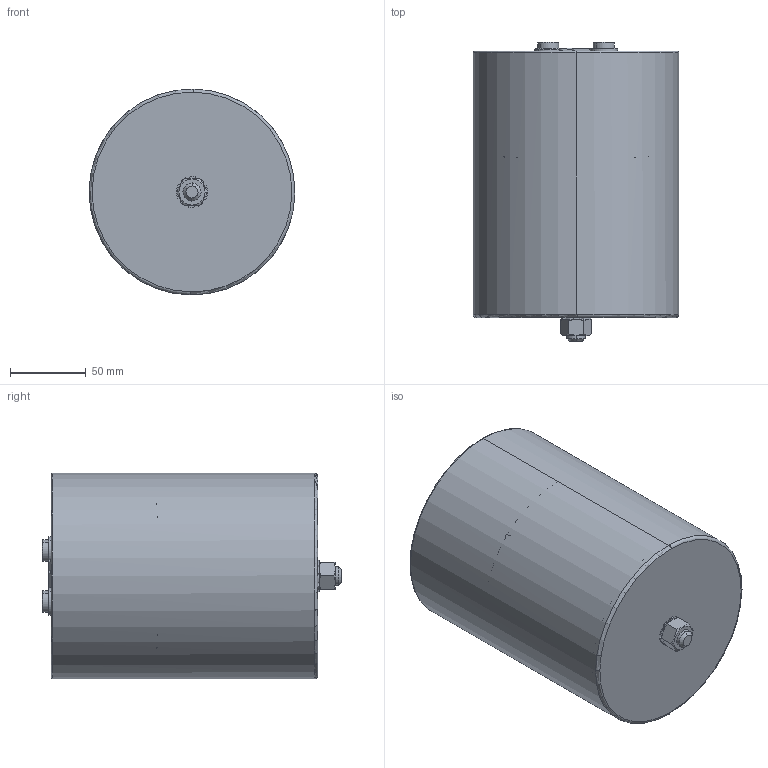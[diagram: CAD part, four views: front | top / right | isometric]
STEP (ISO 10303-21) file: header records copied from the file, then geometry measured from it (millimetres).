
FILE_DESCRIPTION (( 'STEP AP203' ), '1' );
FILE_NAME ('B25690Cx_136x176_182.STEP', '2021-09-07T06:44:40', ( '' ), ( '' ), 'SwSTEP 2.0', 'SolidWorks 2017', '' );
FILE_SCHEMA (( 'CONFIG_CONTROL_DESIGN' ));
Length unit declared in the file: millimetre
Products named in the file (1): B25690Cx_136x176_182
Bounding box: 136 x 198 x 136 mm (x, y, z)
Volume: 284073.1 mm3; surface area: 210657.4 mm2
Topology: 1 solids, 3 shells, 295 faces, 755 edges, 472 vertices
Faces by surface type: plane 144, cylinder 97, cone 38, torus 8, sphere 8
Entity records: 9270 total; most frequent: CARTESIAN_POINT 2139, DIRECTION 1513, ORIENTED_EDGE 1494, EDGE_CURVE 747, AXIS2_PLACEMENT_3D 594, VERTEX_POINT 472, LINE 325, VECTOR 325
